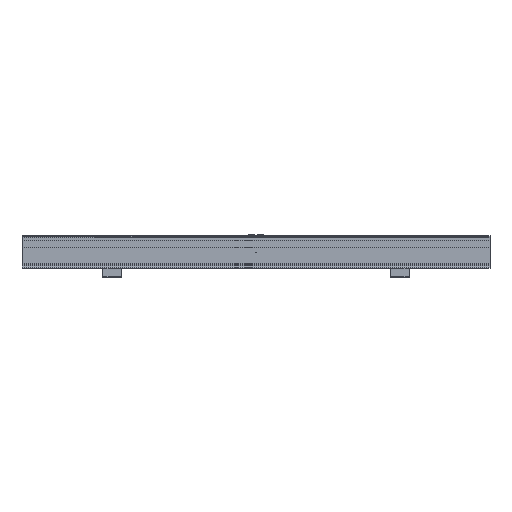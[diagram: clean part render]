
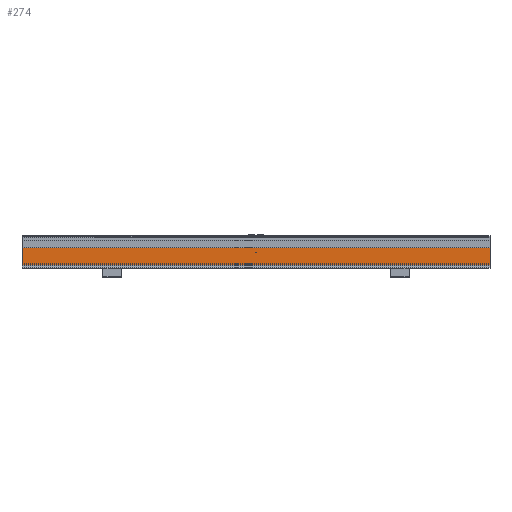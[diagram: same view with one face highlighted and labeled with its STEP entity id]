
A CAD part, left-side view. The second image highlights one B-rep face of the part: STEP entity #274.
In plain terms, the highlighted planar face has unit normal (-1, 0, 0).
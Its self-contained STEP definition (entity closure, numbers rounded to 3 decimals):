
#274 = ADVANCED_FACE( '', ( #853 ), #854, .T. );
#853 = FACE_OUTER_BOUND( '', #1737, .T. );
#854 = PLANE( '', #1738 );
#1737 = EDGE_LOOP( '', ( #3530, #3531, #3532, #3533 ) );
#1738 = AXIS2_PLACEMENT_3D( '', #3534, #3535, #3536 );
#3530 = ORIENTED_EDGE( '', *, *, #5825, .T. );
#3531 = ORIENTED_EDGE( '', *, *, #5944, .F. );
#3532 = ORIENTED_EDGE( '', *, *, #5793, .T. );
#3533 = ORIENTED_EDGE( '', *, *, #5943, .T. );
#3534 = CARTESIAN_POINT( '', ( -19., 0., 11. ) );
#3535 = DIRECTION( '', ( -1., 0., 0. ) );
#3536 = DIRECTION( '', ( 0., 0., 1. ) );
#5793 = EDGE_CURVE( '', #7047, #7045, #7048, .T. );
#5825 = EDGE_CURVE( '', #7108, #7106, #7109, .T. );
#5943 = EDGE_CURVE( '', #7045, #7108, #7291, .T. );
#5944 = EDGE_CURVE( '', #7047, #7106, #7292, .T. );
#7045 = VERTEX_POINT( '', #8966 );
#7047 = VERTEX_POINT( '', #8969 );
#7048 = LINE( '', #8970, #8971 );
#7106 = VERTEX_POINT( '', #9049 );
#7108 = VERTEX_POINT( '', #9052 );
#7109 = LINE( '', #9053, #9054 );
#7291 = LINE( '', #9338, #9339 );
#7292 = LINE( '', #9340, #9341 );
#8966 = CARTESIAN_POINT( '', ( -19., 0., 11. ) );
#8969 = CARTESIAN_POINT( '', ( -19., 0., -27. ) );
#8970 = CARTESIAN_POINT( '', ( -19., 0., -27. ) );
#8971 = VECTOR( '', #11275, 1. );
#9049 = CARTESIAN_POINT( '', ( -19., 1070., -27. ) );
#9052 = CARTESIAN_POINT( '', ( -19., 1070., 11. ) );
#9053 = CARTESIAN_POINT( '', ( -19., 1070., -27. ) );
#9054 = VECTOR( '', #11327, 1. );
#9338 = CARTESIAN_POINT( '', ( -19., 0., 11. ) );
#9339 = VECTOR( '', #11475, 1. );
#9340 = CARTESIAN_POINT( '', ( -19., 0., -27. ) );
#9341 = VECTOR( '', #11476, 1. );
#11275 = DIRECTION( '', ( 0., 0., 1. ) );
#11327 = DIRECTION( '', ( 0., 0., -1. ) );
#11475 = DIRECTION( '', ( 0., 1., 0. ) );
#11476 = DIRECTION( '', ( 0., 1., 0. ) );
